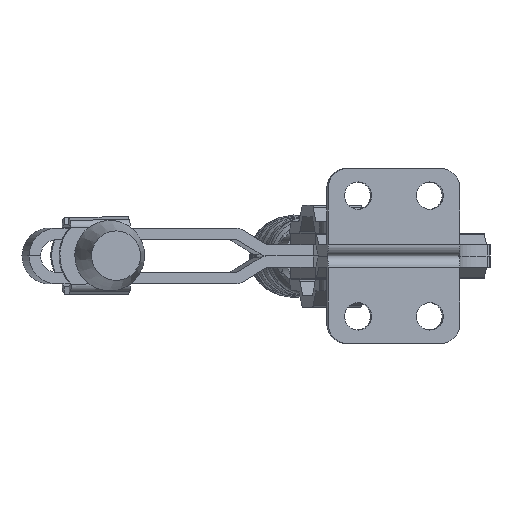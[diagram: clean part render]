
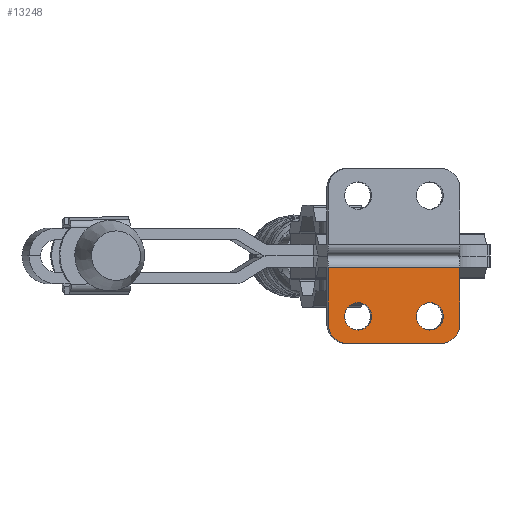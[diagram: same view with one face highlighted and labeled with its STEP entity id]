
A CAD part, front view. The second image highlights one B-rep face of the part: STEP entity #13248.
In plain terms, the highlighted planar face has unit normal (0.119, -0.993, 0) as drawn and (0, -1, 0) by its records, which use the part's own axes.
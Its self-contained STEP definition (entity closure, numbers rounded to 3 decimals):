
#440=FACE_BOUND('',#2566,.T.);
#441=FACE_BOUND('',#2567,.T.);
#1188=PLANE('',#14210);
#1803=FACE_OUTER_BOUND('',#2565,.T.);
#2565=EDGE_LOOP('',(#11629,#11630,#11631,#11632,#11633,#11634));
#2566=EDGE_LOOP('',(#11635,#11636));
#2567=EDGE_LOOP('',(#11637,#11638));
#3618=LINE('',#46495,#4711);
#3652=LINE('',#46610,#4745);
#3653=LINE('',#46612,#4746);
#3654=LINE('',#46614,#4747);
#4711=VECTOR('',#16464,1000.);
#4745=VECTOR('',#16564,1000.);
#4746=VECTOR('',#16565,1000.);
#4747=VECTOR('',#16566,1000.);
#5120=CIRCLE('',#14159,3.6);
#5123=CIRCLE('',#14162,3.6);
#5124=CIRCLE('',#14164,3.6);
#5127=CIRCLE('',#14167,3.6);
#5158=CIRCLE('',#14211,5.);
#5159=CIRCLE('',#14212,5.);
#6307=VERTEX_POINT('',#46449);
#6308=VERTEX_POINT('',#46450);
#6311=VERTEX_POINT('',#46459);
#6312=VERTEX_POINT('',#46460);
#6325=VERTEX_POINT('',#46492);
#6326=VERTEX_POINT('',#46494);
#6373=VERTEX_POINT('',#46607);
#6374=VERTEX_POINT('',#46609);
#6375=VERTEX_POINT('',#46611);
#6376=VERTEX_POINT('',#46613);
#8110=EDGE_CURVE('',#6307,#6308,#5120,.T.);
#8114=EDGE_CURVE('',#6308,#6307,#5123,.T.);
#8115=EDGE_CURVE('',#6311,#6312,#5124,.T.);
#8119=EDGE_CURVE('',#6312,#6311,#5127,.T.);
#8132=EDGE_CURVE('',#6326,#6325,#3618,.T.);
#8188=EDGE_CURVE('',#6325,#6373,#5158,.T.);
#8189=EDGE_CURVE('',#6373,#6374,#3652,.T.);
#8190=EDGE_CURVE('',#6374,#6375,#3653,.T.);
#8191=EDGE_CURVE('',#6375,#6376,#3654,.T.);
#8192=EDGE_CURVE('',#6376,#6326,#5159,.T.);
#11629=ORIENTED_EDGE('',*,*,#8132,.T.);
#11630=ORIENTED_EDGE('',*,*,#8188,.T.);
#11631=ORIENTED_EDGE('',*,*,#8189,.T.);
#11632=ORIENTED_EDGE('',*,*,#8190,.T.);
#11633=ORIENTED_EDGE('',*,*,#8191,.T.);
#11634=ORIENTED_EDGE('',*,*,#8192,.T.);
#11635=ORIENTED_EDGE('',*,*,#8110,.F.);
#11636=ORIENTED_EDGE('',*,*,#8114,.F.);
#11637=ORIENTED_EDGE('',*,*,#8115,.F.);
#11638=ORIENTED_EDGE('',*,*,#8119,.F.);
#13248=ADVANCED_FACE('',(#1803,#440,#441),#1188,.F.);
#14159=AXIS2_PLACEMENT_3D('',#46451,#16418,#16419);
#14162=AXIS2_PLACEMENT_3D('',#46457,#16425,#16426);
#14164=AXIS2_PLACEMENT_3D('',#46461,#16429,#16430);
#14167=AXIS2_PLACEMENT_3D('',#46467,#16436,#16437);
#14210=AXIS2_PLACEMENT_3D('',#46606,#16560,#16561);
#14211=AXIS2_PLACEMENT_3D('',#46608,#16562,#16563);
#14212=AXIS2_PLACEMENT_3D('',#46615,#16567,#16568);
#16418=DIRECTION('center_axis',(0.,-1.,0.));
#16419=DIRECTION('ref_axis',(0.,0.,-1.));
#16425=DIRECTION('center_axis',(0.,-1.,0.));
#16426=DIRECTION('ref_axis',(0.,0.,-1.));
#16429=DIRECTION('center_axis',(0.,-1.,0.));
#16430=DIRECTION('ref_axis',(0.,0.,-1.));
#16436=DIRECTION('center_axis',(0.,-1.,0.));
#16437=DIRECTION('ref_axis',(0.,0.,-1.));
#16464=DIRECTION('',(-1.,0.,0.));
#16560=DIRECTION('center_axis',(0.,1.,0.));
#16561=DIRECTION('ref_axis',(0.,0.,-1.));
#16562=DIRECTION('center_axis',(0.,-1.,0.));
#16563=DIRECTION('ref_axis',(0.,0.,1.));
#16564=DIRECTION('',(0.,0.,-1.));
#16565=DIRECTION('',(1.,0.,0.));
#16566=DIRECTION('',(0.,0.,1.));
#16567=DIRECTION('center_axis',(0.,-1.,0.));
#16568=DIRECTION('ref_axis',(0.,0.,1.));
#46449=CARTESIAN_POINT('',(36.55,0.,35.297));
#46450=CARTESIAN_POINT('',(36.55,0.,42.497));
#46451=CARTESIAN_POINT('Origin',(36.55,0.,38.897));
#46457=CARTESIAN_POINT('Origin',(36.55,0.,38.897));
#46459=CARTESIAN_POINT('',(17.55,0.,35.297));
#46460=CARTESIAN_POINT('',(17.55,0.,42.497));
#46461=CARTESIAN_POINT('Origin',(17.55,0.,38.897));
#46467=CARTESIAN_POINT('Origin',(17.55,0.,38.897));
#46492=CARTESIAN_POINT('',(14.6,0.,46.));
#46494=CARTESIAN_POINT('',(39.5,0.,46.));
#46495=CARTESIAN_POINT('',(47.3,0.,46.));
#46606=CARTESIAN_POINT('Origin',(47.3,0.,46.));
#46607=CARTESIAN_POINT('',(9.6,0.,41.));
#46608=CARTESIAN_POINT('Origin',(14.6,0.,41.));
#46609=CARTESIAN_POINT('',(9.6,0.,26.));
#46610=CARTESIAN_POINT('',(9.6,0.,46.));
#46611=CARTESIAN_POINT('',(44.5,0.,26.));
#46612=CARTESIAN_POINT('',(47.3,0.,26.));
#46613=CARTESIAN_POINT('',(44.5,0.,41.));
#46614=CARTESIAN_POINT('',(44.5,0.,46.));
#46615=CARTESIAN_POINT('Origin',(39.5,0.,41.));
